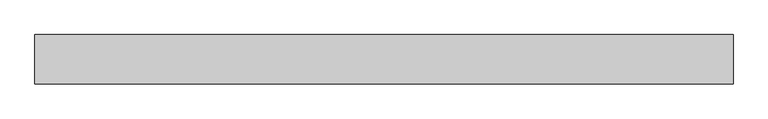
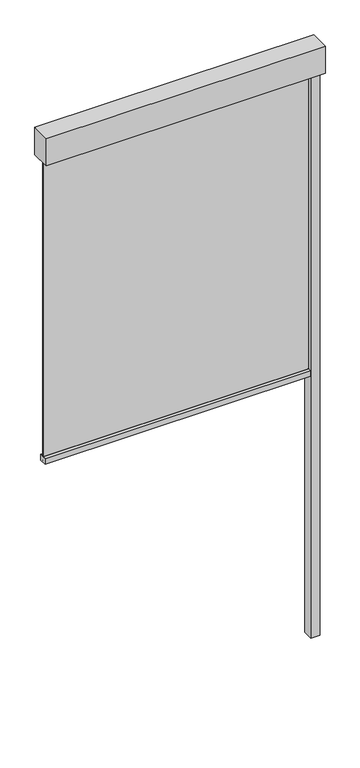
"""IFC4 building model written with IfcOpenShell, lengths in millimetres: proxy geometry, Renson_Fixscreen_Minimal_CW50_Reynaers_End : For Reynaers curtain wall - End element - Access downwards - Fabric close to the window."""

from ifc_helpers import new_model, si_unit, point, frame, frame_2d, origin, origin_with_axes, place, context, project, spatial, polyline, circle_curve, trimmed, segment, composite_curve, outline, extrude, source, transform, mapped, element, save


def generic_models_7d98fb68(model_context):
    return source(origin(), model_context, "Body", "SweptSolid", [
        extrude(outline(polyline([(482.0, -693.5959909), (482.0, -703.7336963), (528.0, -703.7336963), (528.0, -693.5959909), (530.0, -693.5959909), (530.0, -751.4959909), (480.0, -751.4959909), (480.0, -693.5959909), (482.0, -693.5959909)])), origin_with_axes(), (0.0, 0.0, 1.0), 3340.0),
        extrude(outline(polyline([(-1025.0, -693.5959909), (530.0, -693.5959909), (530.0, -803.5959909), (-1025.0, -803.5959909), (-1025.0, -693.5959909)])), frame((0.0, 0.0, 3340.0), z_axis=(0.0, 0.0, 1.0), x_axis=(1.0, 0.0, 0.0)), (0.0, 0.0, 1.0), 160.0),
        extrude(outline(composite_curve([segment(polyline([(-708.5959909, 1540.0), (-749.0958874, 1540.0), (-749.0958874, 1574.1156826), (-731.9717779, 1575.0000198)]), True, "CONTINUOUS"), segment(trimmed(circle_curve(frame_2d((-731.9459909, 1574.5006852)), 0.5), [point((-731.9717779, 1575.0000198))], [point((-731.4459909, 1574.5006852))], False, "CARTESIAN"), True, "CONTINUOUS"), segment(polyline([(-731.4459909, 1574.5006852), (-731.4459909, 1573.5367989), (-732.7111292, 1573.5367989), (-731.9708257, 1569.0119223)]), True, "CONTINUOUS"), segment(trimmed(circle_curve(frame_2d((-771.4459909, 1562.5534911)), 40.0), [point((-731.9708257, 1569.0119223))], [point((-731.4459909, 1562.5534911))], False, "CARTESIAN"), True, "CONTINUOUS"), segment(polyline([(-731.4459909, 1562.5534911), (-731.4459909, 1554.5006852)]), True, "CONTINUOUS"), segment(trimmed(circle_curve(frame_2d((-729.4459909, 1554.5006852)), 2.0), [point((-731.4459909, 1554.5006852))], [point((-729.4459909, 1552.5006852))], True, "CARTESIAN"), True, "CONTINUOUS"), segment(polyline([(-729.4459909, 1552.5006852), (-727.7459909, 1552.5006852)]), True, "CONTINUOUS"), segment(trimmed(circle_curve(frame_2d((-727.7459909, 1554.5006852)), 2.0), [point((-727.7459909, 1552.5006852))], [point((-725.7459909, 1554.5006852))], True, "CARTESIAN"), True, "CONTINUOUS"), segment(polyline([(-725.7459909, 1554.5006852), (-725.7459909, 1562.5534911)]), True, "CONTINUOUS"), segment(trimmed(circle_curve(frame_2d((-685.7459909, 1562.5534911)), 40.0), [point((-725.7459909, 1562.5534911))], [point((-725.221156, 1569.0119223))], False, "CARTESIAN"), True, "CONTINUOUS"), segment(polyline([(-725.221156, 1569.0119223), (-724.4808525, 1573.5367989), (-725.7459909, 1573.5367989), (-725.7459909, 1574.5006852)]), True, "CONTINUOUS"), segment(trimmed(circle_curve(frame_2d((-725.2459909, 1574.5006852)), 0.5), [point((-725.7459909, 1574.5006852))], [point((-725.2194276, 1574.9999791))], False, "CARTESIAN"), True, "CONTINUOUS"), segment(polyline([(-725.2194276, 1574.9999791), (-708.5959909, 1574.1156826), (-708.5959909, 1540.0)]), True, "CONTINUOUS")], self_intersect=False)), frame((-1000.0, 0.0, 0.0), z_axis=(1.0, 0.0, 0.0), x_axis=(0.0, 1.0, 0.0)), (0.0, 0.0, 1.0), 1480.0),
        extrude(outline(polyline([(-1000.0, -730.0959909), (-1000.0, -727.0959909), (480.0, -727.0959909), (480.0, -730.0959909), (-1000.0, -730.0959909)])), frame((0.0, 0.0, 1552.5006852), z_axis=(0.0, 0.0, 1.0), x_axis=(1.0, 0.0, 0.0)), (0.0, 0.0, 1.0), 1787.4993148),
    ])


if __name__ == "__main__":
    model = new_model("IFC4")
    model_context = context("Model", 3, world=origin())
    ifc_project = project(units=[si_unit("LENGTHUNIT", "METRE", prefix="MILLI")], contexts=[model_context])
    site = spatial("IfcSite", under=ifc_project)
    building = spatial("IfcBuilding", under=site)
    placement = place(None, origin())
    generic_models_shape = generic_models_7d98fb68(model_context)
    element("IfcBuildingElementProxy", 1, Name="Renson_Fixscreen_Minimal_CW50_Reynaers_End : For Reynaers curtain wall - End element - Access downwards - Fabric close to the window", ObjectType="Renson_Fixscreen_Minimal_CW50_Reynaers_End : For Reynaers curtain wall - End element - Access downwards - Fabric close to the window", at=placement, inside=building, context=model_context, shape_type="MappedRepresentation", body=[
        mapped(generic_models_shape, transform((0.0, 0.0, 0.0), x_axis=(1.0, 0.0, 0.0), y_axis=(0.0, 1.0, 0.0), z_axis=(0.0, 0.0, 1.0))),
    ])
    save(model, "model.ifc")
